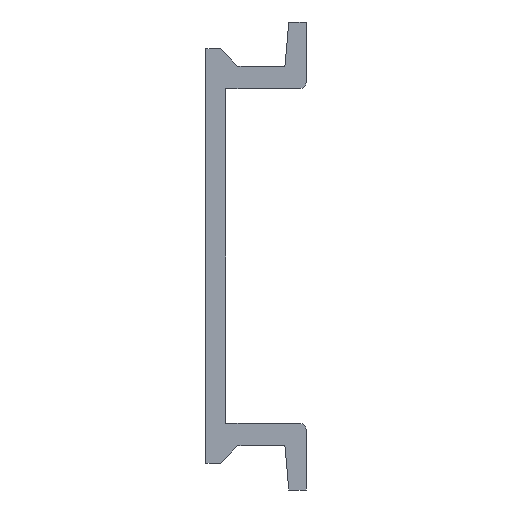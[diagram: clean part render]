
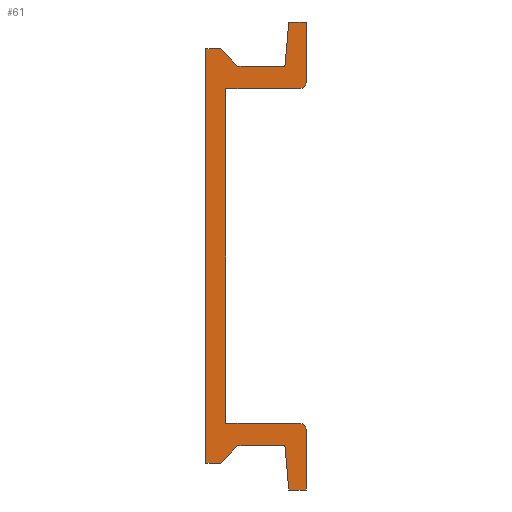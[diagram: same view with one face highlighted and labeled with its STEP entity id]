
A CAD part, left-side view. The second image highlights one B-rep face of the part: STEP entity #61.
In plain terms, the highlighted planar face has unit normal (-1, 0, 0).
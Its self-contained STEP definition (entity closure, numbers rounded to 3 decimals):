
#61=ADVANCED_FACE('',(#349),#348,.F.);
#348=PLANE('',#992);
#349=FACE_OUTER_BOUND('',#993,.T.);
#989=CARTESIAN_POINT('',(0.,-8.25,21.));
#990=DIRECTION('',(1.,0.,0.));
#991=DIRECTION('',(0.,0.,-1.));
#992=AXIS2_PLACEMENT_3D('',#989,#990,#991);
#993=EDGE_LOOP('',(#1446,#1447,#1448,#1449,#1450,#1451,#1452,#1453,#1454,#1455,#1456,#1457,#1458,#1459,#1460,#1461,#1462,#1463));
#1446=ORIENTED_EDGE('',*,*,#1671,.T.);
#1447=ORIENTED_EDGE('',*,*,#1675,.T.);
#1448=ORIENTED_EDGE('',*,*,#1823,.T.);
#1449=ORIENTED_EDGE('',*,*,#1820,.T.);
#1450=ORIENTED_EDGE('',*,*,#1817,.T.);
#1451=ORIENTED_EDGE('',*,*,#1814,.T.);
#1452=ORIENTED_EDGE('',*,*,#1811,.T.);
#1453=ORIENTED_EDGE('',*,*,#1808,.T.);
#1454=ORIENTED_EDGE('',*,*,#1805,.T.);
#1455=ORIENTED_EDGE('',*,*,#1802,.T.);
#1456=ORIENTED_EDGE('',*,*,#1749,.T.);
#1457=ORIENTED_EDGE('',*,*,#1746,.T.);
#1458=ORIENTED_EDGE('',*,*,#1743,.T.);
#1459=ORIENTED_EDGE('',*,*,#1740,.T.);
#1460=ORIENTED_EDGE('',*,*,#1737,.T.);
#1461=ORIENTED_EDGE('',*,*,#1734,.T.);
#1462=ORIENTED_EDGE('',*,*,#1731,.T.);
#1463=ORIENTED_EDGE('',*,*,#1728,.T.);
#1671=EDGE_CURVE('',#1922,#1923,#1924,.T.);
#1675=EDGE_CURVE('',#1923,#1950,#1951,.T.);
#1728=EDGE_CURVE('',#2319,#1922,#2320,.T.);
#1731=EDGE_CURVE('',#2339,#2319,#2340,.T.);
#1734=EDGE_CURVE('',#2359,#2339,#2360,.T.);
#1737=EDGE_CURVE('',#2379,#2359,#2380,.T.);
#1740=EDGE_CURVE('',#2399,#2379,#2400,.T.);
#1743=EDGE_CURVE('',#2419,#2399,#2420,.T.);
#1746=EDGE_CURVE('',#2439,#2419,#2440,.T.);
#1749=EDGE_CURVE('',#2459,#2439,#2460,.T.);
#1802=EDGE_CURVE('',#2828,#2459,#2829,.T.);
#1805=EDGE_CURVE('',#2848,#2828,#2849,.T.);
#1808=EDGE_CURVE('',#2868,#2848,#2869,.T.);
#1811=EDGE_CURVE('',#2888,#2868,#2889,.T.);
#1814=EDGE_CURVE('',#2908,#2888,#2909,.T.);
#1817=EDGE_CURVE('',#2928,#2908,#2929,.T.);
#1820=EDGE_CURVE('',#2948,#2928,#2949,.T.);
#1823=EDGE_CURVE('',#1950,#2948,#2968,.T.);
#1922=VERTEX_POINT('',#3303);
#1923=VERTEX_POINT('',#3304);
#1924=LINE('',#3305,#3306);
#1950=VERTEX_POINT('',#3319);
#1951=LINE('',#3320,#3321);
#2319=VERTEX_POINT('',#3554);
#2320=CIRCLE('',#3558,0.5);
#2339=VERTEX_POINT('',#3567);
#2340=LINE('',#3568,#3569);
#2359=VERTEX_POINT('',#3578);
#2360=LINE('',#3579,#3580);
#2379=VERTEX_POINT('',#3589);
#2380=LINE('',#3590,#3591);
#2399=VERTEX_POINT('',#3600);
#2400=LINE('',#3601,#3602);
#2419=VERTEX_POINT('',#3611);
#2420=LINE('',#3612,#3613);
#2439=VERTEX_POINT('',#3622);
#2440=LINE('',#3623,#3624);
#2459=VERTEX_POINT('',#3633);
#2460=LINE('',#3634,#3635);
#2828=VERTEX_POINT('',#3868);
#2829=LINE('',#3869,#3870);
#2848=VERTEX_POINT('',#3879);
#2849=LINE('',#3880,#3881);
#2868=VERTEX_POINT('',#3890);
#2869=LINE('',#3891,#3892);
#2888=VERTEX_POINT('',#3901);
#2889=LINE('',#3902,#3903);
#2908=VERTEX_POINT('',#3912);
#2909=LINE('',#3913,#3914);
#2928=VERTEX_POINT('',#3923);
#2929=LINE('',#3924,#3925);
#2948=VERTEX_POINT('',#3934);
#2949=CIRCLE('',#3938,0.5);
#2968=LINE('',#3947,#3948);
#3303=CARTESIAN_POINT('',(0.,-7.,-12.5));
#3304=CARTESIAN_POINT('',(0.,-1.5,-12.5));
#3305=CARTESIAN_POINT('',(0.,-7.,-12.5));
#3306=VECTOR('',#3307,5.5);
#3307=DIRECTION('',(0.,1.,0.));
#3319=CARTESIAN_POINT('',(0.,-1.5,12.5));
#3320=CARTESIAN_POINT('',(0.,-1.5,-12.5));
#3321=VECTOR('',#3322,25.);
#3322=DIRECTION('',(0.,0.,1.));
#3554=CARTESIAN_POINT('',(0.,-7.5,-13.));
#3555=CARTESIAN_POINT('',(0.,-7.,-13.));
#3556=DIRECTION('',(-1.,0.,0.));
#3557=DIRECTION('',(0.,0.,1.));
#3558=AXIS2_PLACEMENT_3D('',#3555,#3556,#3557);
#3567=CARTESIAN_POINT('',(0.,-7.5,-17.5));
#3568=CARTESIAN_POINT('',(0.,-7.5,-17.5));
#3569=VECTOR('',#3570,4.5);
#3570=DIRECTION('',(0.,0.,1.));
#3578=CARTESIAN_POINT('',(0.,-6.2,-17.5));
#3579=CARTESIAN_POINT('',(0.,-6.2,-17.5));
#3580=VECTOR('',#3581,1.3);
#3581=DIRECTION('',(0.,-1.,0.));
#3589=CARTESIAN_POINT('',(0.,-5.911,-14.2));
#3590=CARTESIAN_POINT('',(0.,-5.911,-14.2));
#3591=VECTOR('',#3592,3.313);
#3592=DIRECTION('',(0.,-0.087,-0.996));
#3600=CARTESIAN_POINT('',(0.,-2.4,-14.2));
#3601=CARTESIAN_POINT('',(0.,-2.4,-14.2));
#3602=VECTOR('',#3603,3.511);
#3603=DIRECTION('',(0.,-1.,0.));
#3611=CARTESIAN_POINT('',(0.,-1.1,-15.5));
#3612=CARTESIAN_POINT('',(0.,-1.1,-15.5));
#3613=VECTOR('',#3614,1.838);
#3614=DIRECTION('',(0.,-0.707,0.707));
#3622=CARTESIAN_POINT('',(0.,0.,-15.5));
#3623=CARTESIAN_POINT('',(0.,0.,-15.5));
#3624=VECTOR('',#3625,1.1);
#3625=DIRECTION('',(0.,-1.,0.));
#3633=CARTESIAN_POINT('',(0.,0.,15.5));
#3634=CARTESIAN_POINT('',(0.,0.,15.5));
#3635=VECTOR('',#3636,31.);
#3636=DIRECTION('',(0.,0.,-1.));
#3868=CARTESIAN_POINT('',(0.,-1.1,15.5));
#3869=CARTESIAN_POINT('',(0.,-1.1,15.5));
#3870=VECTOR('',#3871,1.1);
#3871=DIRECTION('',(0.,1.,0.));
#3879=CARTESIAN_POINT('',(0.,-2.4,14.2));
#3880=CARTESIAN_POINT('',(0.,-2.4,14.2));
#3881=VECTOR('',#3882,1.838);
#3882=DIRECTION('',(0.,0.707,0.707));
#3890=CARTESIAN_POINT('',(0.,-5.911,14.2));
#3891=CARTESIAN_POINT('',(0.,-5.911,14.2));
#3892=VECTOR('',#3893,3.511);
#3893=DIRECTION('',(0.,1.,0.));
#3901=CARTESIAN_POINT('',(0.,-6.2,17.5));
#3902=CARTESIAN_POINT('',(0.,-6.2,17.5));
#3903=VECTOR('',#3904,3.313);
#3904=DIRECTION('',(0.,0.087,-0.996));
#3912=CARTESIAN_POINT('',(0.,-7.5,17.5));
#3913=CARTESIAN_POINT('',(0.,-7.5,17.5));
#3914=VECTOR('',#3915,1.3);
#3915=DIRECTION('',(0.,1.,0.));
#3923=CARTESIAN_POINT('',(0.,-7.5,13.));
#3924=CARTESIAN_POINT('',(0.,-7.5,13.));
#3925=VECTOR('',#3926,4.5);
#3926=DIRECTION('',(0.,0.,1.));
#3934=CARTESIAN_POINT('',(0.,-7.,12.5));
#3935=CARTESIAN_POINT('',(0.,-7.,13.));
#3936=DIRECTION('',(-1.,0.,0.));
#3937=DIRECTION('',(0.,0.,1.));
#3938=AXIS2_PLACEMENT_3D('',#3935,#3936,#3937);
#3947=CARTESIAN_POINT('',(0.,-1.5,12.5));
#3948=VECTOR('',#3949,5.5);
#3949=DIRECTION('',(0.,-1.,0.));
